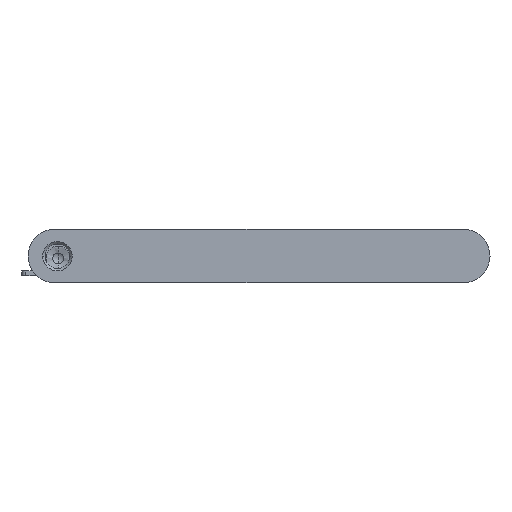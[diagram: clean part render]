
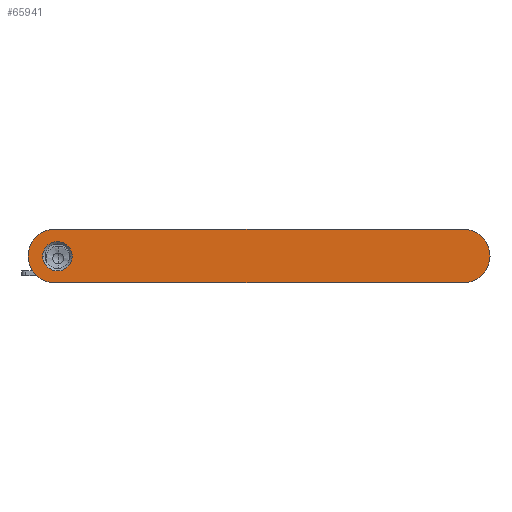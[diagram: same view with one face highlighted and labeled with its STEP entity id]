
A CAD part, front view. The second image highlights one B-rep face of the part: STEP entity #65941.
In plain terms, the highlighted planar face has unit normal (0, -1, 0).
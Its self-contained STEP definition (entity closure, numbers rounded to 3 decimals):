
#63630=CARTESIAN_POINT('',(17.02,-3.53,-0.5));
#63631=DIRECTION('',(0.,1.,0.));
#63632=DIRECTION('',(0.,0.,1.));
#63633=AXIS2_PLACEMENT_3D('',#63630,#63631,#63632);
#63635=CARTESIAN_POINT('',(17.02,-3.53,-0.5));
#63636=DIRECTION('',(0.,1.,0.));
#63637=DIRECTION('',(1.,0.,0.));
#63638=AXIS2_PLACEMENT_3D('',#63635,#63636,#63637);
#63640=DIRECTION('',(-1.,0.,0.));
#63641=VECTOR('',#63640,16.65);
#63642=CARTESIAN_POINT('',(17.02,-3.53,-1.6));
#63643=LINE('',#63642,#63641);
#63644=CARTESIAN_POINT('',(0.37,-3.53,-0.5));
#63645=DIRECTION('',(0.,1.,0.));
#63646=DIRECTION('',(0.,0.,-1.));
#63647=AXIS2_PLACEMENT_3D('',#63644,#63645,#63646);
#63649=CARTESIAN_POINT('',(0.37,-3.53,-0.5));
#63650=DIRECTION('',(0.,1.,0.));
#63651=DIRECTION('',(-1.,0.,0.));
#63652=AXIS2_PLACEMENT_3D('',#63649,#63650,#63651);
#63654=DIRECTION('',(1.,0.,0.));
#63655=VECTOR('',#63654,16.65);
#63656=CARTESIAN_POINT('',(0.37,-3.53,0.6));
#63657=LINE('',#63656,#63655);
#63658=CARTESIAN_POINT('',(0.47,-3.53,-0.51));
#63659=DIRECTION('',(0.,-1.,0.));
#63660=DIRECTION('',(-1.,0.,0.));
#63661=AXIS2_PLACEMENT_3D('',#63658,#63659,#63660);
#63663=CARTESIAN_POINT('',(0.47,-3.53,-0.51));
#63664=DIRECTION('',(0.,-1.,0.));
#63665=DIRECTION('',(0.,0.,-1.));
#63666=AXIS2_PLACEMENT_3D('',#63663,#63664,#63665);
#63668=CARTESIAN_POINT('',(0.47,-3.53,-0.51));
#63669=DIRECTION('',(0.,-1.,0.));
#63670=DIRECTION('',(1.,0.,0.));
#63671=AXIS2_PLACEMENT_3D('',#63668,#63669,#63670);
#63673=CARTESIAN_POINT('',(0.47,-3.53,-0.51));
#63674=DIRECTION('',(0.,-1.,0.));
#63675=DIRECTION('',(0.,0.,1.));
#63676=AXIS2_PLACEMENT_3D('',#63673,#63674,#63675);
#64394=CARTESIAN_POINT('',(18.12,-3.53,-0.5));
#64395=CARTESIAN_POINT('',(17.02,-3.53,-1.6));
#64396=VERTEX_POINT('',#64394);
#64397=VERTEX_POINT('',#64395);
#64398=CARTESIAN_POINT('',(17.02,-3.53,0.6));
#64399=VERTEX_POINT('',#64398);
#64400=CARTESIAN_POINT('',(0.37,-3.53,-1.6));
#64401=VERTEX_POINT('',#64400);
#64402=CARTESIAN_POINT('',(-0.73,-3.53,-0.5));
#64403=VERTEX_POINT('',#64402);
#64404=CARTESIAN_POINT('',(0.37,-3.53,0.6));
#64405=VERTEX_POINT('',#64404);
#64406=CARTESIAN_POINT('',(-0.13,-3.53,
-0.51));
#64407=CARTESIAN_POINT('',(0.47,-3.53,
-1.11));
#64408=VERTEX_POINT('',#64406);
#64409=VERTEX_POINT('',#64407);
#64410=CARTESIAN_POINT('',(1.07,-3.53,-0.51));
#64411=VERTEX_POINT('',#64410);
#64412=CARTESIAN_POINT('',(0.47,-3.53,0.09));
#64413=VERTEX_POINT('',#64412);
#65914=CARTESIAN_POINT('',(8.695,-3.53,-0.5));
#65915=DIRECTION('',(0.,1.,0.));
#65916=DIRECTION('',(1.,0.,0.));
#65917=AXIS2_PLACEMENT_3D('',#65914,#65915,#65916);
#65918=PLANE('',#65917);
#65919=ORIENTED_EDGE('',*,*,#65903,.T.);
#65920=ORIENTED_EDGE('',*,*,#65901,.T.);
#65922=ORIENTED_EDGE('',*,*,#65921,.T.);
#65924=ORIENTED_EDGE('',*,*,#65923,.T.);
#65926=ORIENTED_EDGE('',*,*,#65925,.T.);
#65928=ORIENTED_EDGE('',*,*,#65927,.T.);
#65929=EDGE_LOOP('',(#65919,#65920,#65922,#65924,#65926,#65928));
#65930=FACE_OUTER_BOUND('',#65929,.F.);
#65932=ORIENTED_EDGE('',*,*,#65931,.T.);
#65934=ORIENTED_EDGE('',*,*,#65933,.T.);
#65936=ORIENTED_EDGE('',*,*,#65935,.T.);
#65938=ORIENTED_EDGE('',*,*,#65937,.T.);
#65939=EDGE_LOOP('',(#65932,#65934,#65936,#65938));
#65940=FACE_BOUND('',#65939,.F.);
#65941=ADVANCED_FACE('',(#65930,#65940),#65918,.F.);
#63634=CIRCLE('',#63633,1.1);
#63639=CIRCLE('',#63638,1.1);
#63648=CIRCLE('',#63647,1.1);
#63653=CIRCLE('',#63652,1.1);
#63662=CIRCLE('',#63661,0.6);
#63667=CIRCLE('',#63666,0.6);
#63672=CIRCLE('',#63671,0.6);
#63677=CIRCLE('',#63676,0.6);
#65901=EDGE_CURVE('',#64396,#64397,#63639,.T.);
#65903=EDGE_CURVE('',#64399,#64396,#63634,.T.);
#65921=EDGE_CURVE('',#64397,#64401,#63643,.T.);
#65923=EDGE_CURVE('',#64401,#64403,#63648,.T.);
#65925=EDGE_CURVE('',#64403,#64405,#63653,.T.);
#65927=EDGE_CURVE('',#64405,#64399,#63657,.T.);
#65931=EDGE_CURVE('',#64408,#64409,#63662,.T.);
#65933=EDGE_CURVE('',#64409,#64411,#63667,.T.);
#65935=EDGE_CURVE('',#64411,#64413,#63672,.T.);
#65937=EDGE_CURVE('',#64413,#64408,#63677,.T.);
